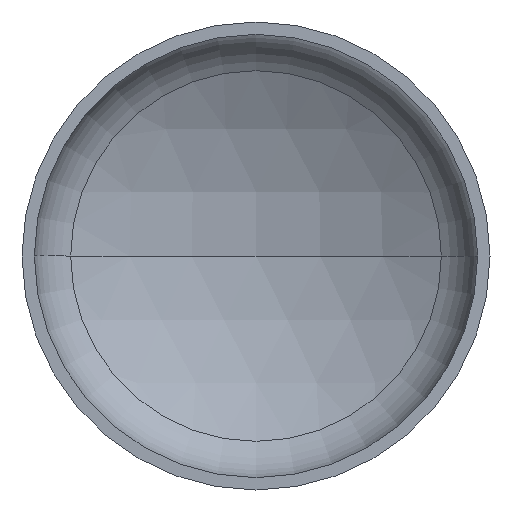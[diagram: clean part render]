
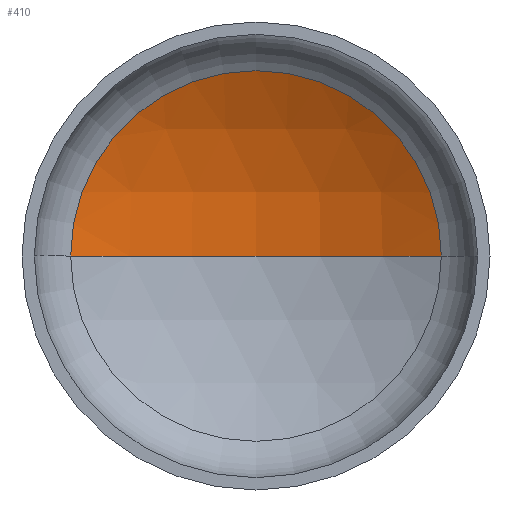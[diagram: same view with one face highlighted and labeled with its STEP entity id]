
A CAD part, front view. The second image highlights one B-rep face of the part: STEP entity #410.
In plain terms, the highlighted spherical face has radius 2240 mm.
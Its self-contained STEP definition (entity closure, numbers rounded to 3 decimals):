
#1 = AXIS2_PLACEMENT_3D ( 'NONE', #65, #108, #119 ) ;
#2 = AXIS2_PLACEMENT_3D ( 'NONE', #375, #304, #233 ) ;
#40 = AXIS2_PLACEMENT_3D ( 'NONE', #225, #201, #202 ) ;
#65 = CARTESIAN_POINT ( 'NONE',  ( 0., -1452.668, 0. ) ) ;
#80 = EDGE_CURVE ( 'NONE', #142, #131, #374, .T. ) ;
#82 = VERTEX_POINT ( 'NONE', #243 ) ;
#108 = DIRECTION ( 'NONE',  ( 0., 0., 1. ) ) ;
#119 = DIRECTION ( 'NONE',  ( 1., 0., 0. ) ) ;
#131 = VERTEX_POINT ( 'NONE', #158 ) ;
#138 = ORIENTED_EDGE ( 'NONE', *, *, #80, .T. ) ;
#142 = VERTEX_POINT ( 'NONE', #216 ) ;
#147 = ORIENTED_EDGE ( 'NONE', *, *, #356, .T. ) ;
#158 = CARTESIAN_POINT ( 'NONE',  ( -1108.862, 493.617, 0. ) ) ;
#164 = CARTESIAN_POINT ( 'NONE',  ( 0., -1452.668, 0. ) ) ;
#165 = ORIENTED_EDGE ( 'NONE', *, *, #360, .F. ) ;
#201 = DIRECTION ( 'NONE',  ( 0., -1., 0. ) ) ;
#202 = DIRECTION ( 'NONE',  ( 1., 0., 0. ) ) ;
#212 = CIRCLE ( 'NONE', #2, 2240. ) ;
#216 = CARTESIAN_POINT ( 'NONE',  ( 1108.862, 493.617, 0. ) ) ;
#218 = AXIS2_PLACEMENT_3D ( 'NONE', #164, #286, #285 ) ;
#225 = CARTESIAN_POINT ( 'NONE',  ( 0., 493.617, 0. ) ) ;
#233 = DIRECTION ( 'NONE',  ( -1., 0., 0. ) ) ;
#243 = CARTESIAN_POINT ( 'NONE',  ( 0., 787.332, 0. ) ) ;
#258 = SPHERICAL_SURFACE ( 'NONE', #218, 2240. ) ;
#272 = FACE_OUTER_BOUND ( 'NONE', #401, .T. ) ;
#285 = DIRECTION ( 'NONE',  ( -1., 0., 0. ) ) ;
#286 = DIRECTION ( 'NONE',  ( 0., 0., -1. ) ) ;
#304 = DIRECTION ( 'NONE',  ( 0., 0., -1. ) ) ;
#356 = EDGE_CURVE ( 'NONE', #82, #142, #212, .T. ) ;
#360 = EDGE_CURVE ( 'NONE', #82, #131, #395, .T. ) ;
#374 = CIRCLE ( 'NONE', #40, 1108.862 ) ;
#375 = CARTESIAN_POINT ( 'NONE',  ( 0., -1452.668, 0. ) ) ;
#395 = CIRCLE ( 'NONE', #1, 2240. ) ;
#401 = EDGE_LOOP ( 'NONE', ( #165, #147, #138 ) ) ;
#410 = ADVANCED_FACE ( 'NONE', ( #272 ), #258, .F. ) ;
